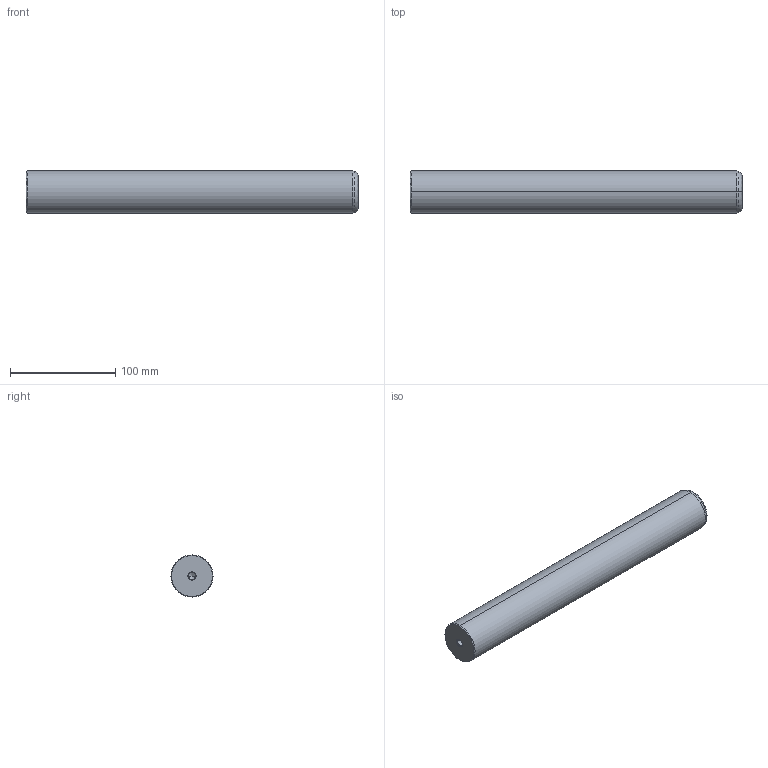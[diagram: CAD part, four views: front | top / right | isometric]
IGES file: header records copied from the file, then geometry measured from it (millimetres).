
Start section: START RECORD GO HERE.
Global section: file name: 720-40x315.igs; native system: DASSAULT SYSTEMES CATIA V5 R20 - www.3ds.com; preprocessor: CATIA Version 5 Release 20 ; author: Utente; organization: NB04-ASUS; date: 20201230.225717; units: millimetre
Bounding box: 315 x 40 x 40 mm (x, y, z)
Surface area: 42768.2 mm2 (no closed solid volume)
Topology: 0 solids, 0 shells, 22 faces, 120 edges, 116 vertices
Faces by surface type: revolution 20, plane 2
